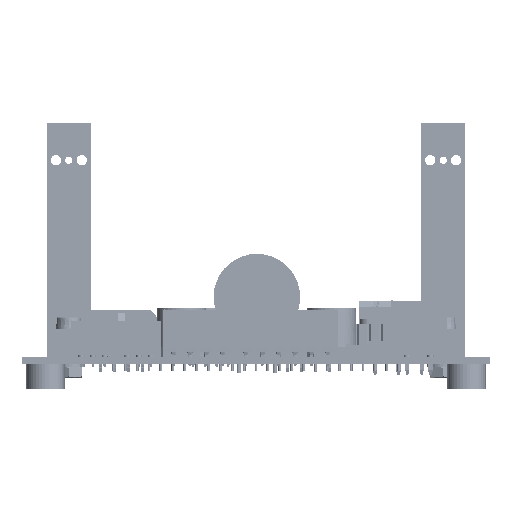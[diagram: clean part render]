
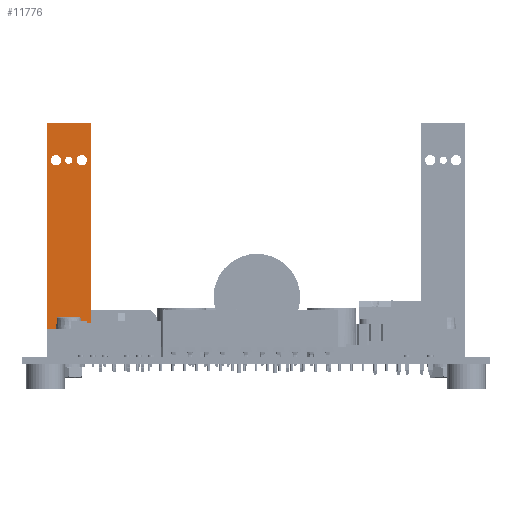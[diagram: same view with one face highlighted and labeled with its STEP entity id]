
A CAD part, left-side view. The second image highlights one B-rep face of the part: STEP entity #11776.
In plain terms, the highlighted planar face has unit normal (-1, 0, 0).
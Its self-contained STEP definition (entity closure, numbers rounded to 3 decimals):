
#11776=ADVANCED_FACE('',(#20365,#20366,#20367,#20368),#16191,.T.);
#16191=PLANE('',#110992);
#18369=CIRCLE('',#110959,0.775);
#18371=CIRCLE('',#110962,1.1);
#18377=CIRCLE('',#110971,1.1);
#20365=FACE_BOUND('',#26683,.T.);
#20366=FACE_BOUND('',#26684,.T.);
#20367=FACE_BOUND('',#26685,.T.);
#20368=FACE_BOUND('',#26686,.T.);
#26683=EDGE_LOOP('',(#53841,#53842,#53843,#53844));
#26684=EDGE_LOOP('',(#53845));
#26685=EDGE_LOOP('',(#53846));
#26686=EDGE_LOOP('',(#53847));
#53841=ORIENTED_EDGE('',*,*,#79179,.T.);
#53842=ORIENTED_EDGE('',*,*,#79133,.F.);
#53843=ORIENTED_EDGE('',*,*,#79185,.T.);
#53844=ORIENTED_EDGE('',*,*,#79158,.T.);
#53845=ORIENTED_EDGE('',*,*,#79144,.T.);
#53846=ORIENTED_EDGE('',*,*,#79138,.T.);
#53847=ORIENTED_EDGE('',*,*,#79136,.T.);
#65092=VERTEX_POINT('',#173539);
#65095=VERTEX_POINT('',#173544);
#65098=VERTEX_POINT('',#173552);
#65100=VERTEX_POINT('',#173557);
#65106=VERTEX_POINT('',#173572);
#65119=VERTEX_POINT('',#173600);
#65120=VERTEX_POINT('',#173602);
#79133=EDGE_CURVE('',#65095,#65092,#91121,.T.);
#79136=EDGE_CURVE('',#65098,#65098,#18369,.T.);
#79138=EDGE_CURVE('',#65100,#65100,#18371,.T.);
#79144=EDGE_CURVE('',#65106,#65106,#18377,.T.);
#79158=EDGE_CURVE('',#65120,#65119,#91135,.T.);
#79179=EDGE_CURVE('',#65119,#65092,#91156,.T.);
#79185=EDGE_CURVE('',#65095,#65120,#91162,.T.);
#91121=LINE('',#173545,#102922);
#91135=LINE('',#173601,#102936);
#91156=LINE('',#173639,#102957);
#91162=LINE('',#173650,#102963);
#102922=VECTOR('',#136899,1.);
#102936=VECTOR('',#136949,1.);
#102957=VECTOR('',#136990,1.);
#102963=VECTOR('',#137006,1.);
#110959=AXIS2_PLACEMENT_3D('',#173551,#136906,#136907);
#110962=AXIS2_PLACEMENT_3D('',#173556,#136912,#136913);
#110971=AXIS2_PLACEMENT_3D('',#173571,#136930,#136931);
#110992=AXIS2_PLACEMENT_3D('',#173655,#137014,#137015);
#136899=DIRECTION('',(0.,1.,0.));
#136906=DIRECTION('',(1.,0.,0.));
#136907=DIRECTION('',(0.,1.,0.));
#136912=DIRECTION('',(1.,0.,0.));
#136913=DIRECTION('',(0.,1.,0.));
#136930=DIRECTION('',(1.,0.,0.));
#136931=DIRECTION('',(0.,1.,0.));
#136949=DIRECTION('',(0.,1.,0.));
#136990=DIRECTION('',(0.,0.,-1.));
#137006=DIRECTION('',(0.,0.,1.));
#137014=DIRECTION('',(-1.,0.,0.));
#137015=DIRECTION('',(0.,1.,0.));
#173539=CARTESIAN_POINT('',(33.15,94.75,6.));
#173544=CARTESIAN_POINT('',(33.15,85.25,6.));
#173545=CARTESIAN_POINT('',(33.15,85.25,6.));
#173551=CARTESIAN_POINT('',(33.15,90.,42.));
#173552=CARTESIAN_POINT('',(33.15,89.225,42.));
#173556=CARTESIAN_POINT('',(33.15,92.75,42.));
#173557=CARTESIAN_POINT('',(33.15,91.65,42.));
#173571=CARTESIAN_POINT('',(33.15,87.25,42.));
#173572=CARTESIAN_POINT('',(33.15,86.15,42.));
#173600=CARTESIAN_POINT('',(33.15,94.75,50.));
#173601=CARTESIAN_POINT('',(33.15,85.25,50.));
#173602=CARTESIAN_POINT('',(33.15,85.25,50.));
#173639=CARTESIAN_POINT('',(33.15,94.75,50.));
#173650=CARTESIAN_POINT('',(33.15,85.25,6.));
#173655=CARTESIAN_POINT('',(33.15,90.,50.));
